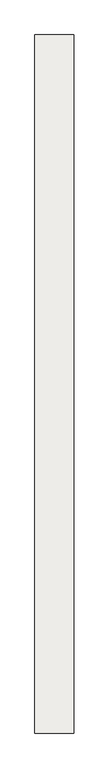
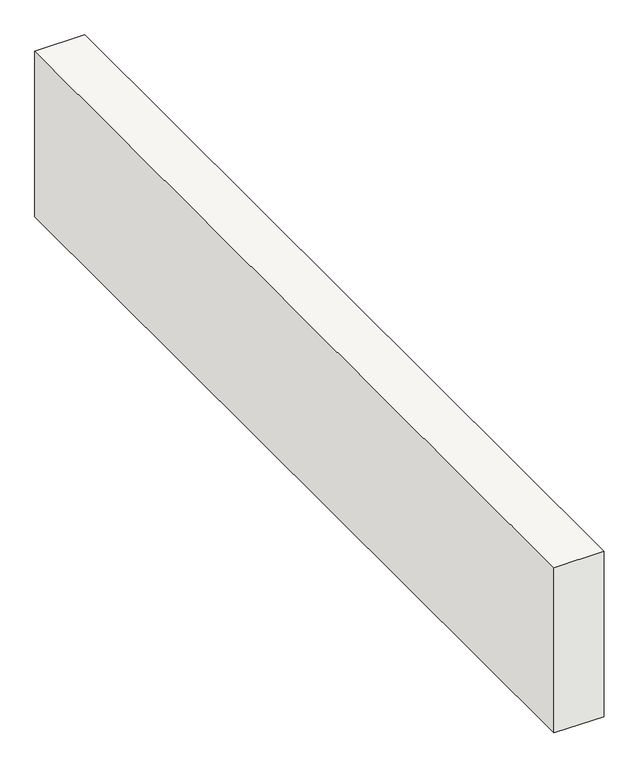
"""IFC4 building model written with IfcOpenShell, lengths in millimetres: slab geometry, Longrine Aval : Longrine Aval."""

from ifc_helpers import new_model, si_unit, frame, origin, place, context, project, spatial, polyline, outline, extrude, source, transform, mapped, element, save


def slab_73a98c7a(model_context):
    return source(origin(), model_context, "Body", "SweptSolid", [
        extrude(outline(polyline([(157106.0, 26860.0), (157106.0, 26660.0), (156407.5452151, 26660.0), (156406.0, 26860.0), (157106.0, 26860.0)])), frame((0.0, -1800.0, 0.0), z_axis=(0.0, 1.0, 0.0), x_axis=(0.0, 0.0, 1.0)), (0.0, 0.0, 1.0), 3600.0),
    ])


if __name__ == "__main__":
    model = new_model("IFC4")
    model_context = context("Model", 3, world=origin())
    ifc_project = project(units=[si_unit("LENGTHUNIT", "METRE", prefix="MILLI")], contexts=[model_context])
    site = spatial("IfcSite", under=ifc_project)
    building = spatial("IfcBuilding", under=site)
    placement = place(None, origin())
    slab_shape = slab_73a98c7a(model_context)
    element("IfcSlab", 1, ObjectType="Longrine Aval : Longrine Aval", at=placement, inside=building, context=model_context, shape_type="MappedRepresentation", body=[
        mapped(slab_shape, transform((0.0, 0.0, 0.0), x_axis=(1.0, 0.0, 0.0), y_axis=(0.0, 1.0, 0.0), z_axis=(0.0, 0.0, 1.0))),
    ])
    save(model, "model.ifc")
